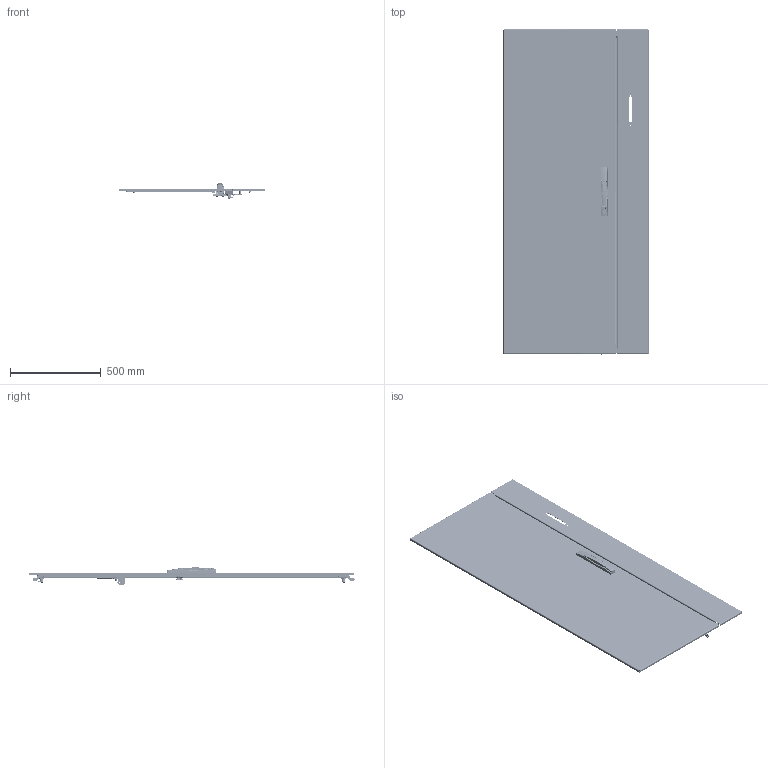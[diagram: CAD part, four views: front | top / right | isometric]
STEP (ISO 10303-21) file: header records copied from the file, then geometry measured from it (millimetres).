
FILE_DESCRIPTION (( 'STEP AP203' ), '1' );
FILE_NAME ('p2ddrl188.STEP', '2016-05-25T20:38:35', ( '' ), ( '' ), 'SwSTEP 2.0', 'SolidWorks 2014', '' );
FILE_SCHEMA (( 'CONFIG_CONTROL_DESIGN' ));
Length unit declared in the file: millimetre
Products named in the file (77): 89135159; 46120001_Compressed; 87960061; 11258013; 89137337_89137337; 89091664_875472289; 89135259_89135259; 89137379_Formed; 89135173_89135173; 11258598_11258598; 89134019_LATCHED; 51223001; 87932262; 11258012; 99404026_99404026; 89133277_89133277; 11258703_11258703; 87931527_87931527; 11258699_11258699; 89137335_BBD; 11258701_11258701; 51138001_Compressed; 87932264; 11358763; 89137336_89137336; 89126143_89124180; 87402653_87402653; 87931368_SLEEVE; 11158435_11158435; p2ddrl188; 11258702_11258702; 60127093; 87960063; 51231001; 46252001; 89137356; 89137142_89137142; 60100041_60100041; 46139003_46139003; 64205001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
Assembly tree (117 placements, depth 5):
  p2ddrl188
    89137377_BBD
      89137378_89137378
        89137379_Formed
        60100041_60100041  x2
          87931527_87931527
          87931368_SLEEVE
        89124458_After Weld  x3
        87920638_87920638  x12
        87931362_87931362  x8
      89137356
        89091664_875472289  x4
        89133277_89133277  x2
        89126143_89124180  x2
      89134078_60127430
        11458037
        11458036
        51140001
        11358764
        11258013
        11258012
        11358763
        51231001
        11258014
        46139001_46139001  x2
        51145001_Extended
        11358765
        46120001_Compressed
        51223001
        51138001_Compressed
        60127093
        60127208
        60127207
      21158168_Locked
        87540678
        64210001
        11258598_11258598
        11258701_11258701
        11258702_11258702
        64205001  x2
        87541995
        87932266
        87927840_87927840
      89135256_89135256
        89135173_89135173
        51155001_51155001
          11258699_11258699
          11158435_11158435
          46139003_46139003
        11258741_11258741
      89135259_89135259
        89135174_89135174
        51155001_51155001
          11258699_11258699
          11158435_11158435
          46139003_46139003
        11258741_11258741
      11258703_11258703  x4
      87402653_87402653
      89137142_89137142
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Bounding box: 797.9 x 1786.54 x 94.3 mm (x, y, z)
Volume: 4196957.7 mm3; surface area: 4578655.6 mm2
Topology: 110 solids, 118 shells, 8570 faces, 21887 edges, 13711 vertices
Faces by surface type: plane 3763, cylinder 2938, torus 791, bspline 676, cone 353, sphere 49
Entity records: 191418 total; most frequent: CARTESIAN_POINT 61689, ORIENTED_EDGE 25876, DIRECTION 24198, EDGE_CURVE 12942, AXIS2_PLACEMENT_3D 8761, VERTEX_POINT 8195, LINE 6676, VECTOR 6676
